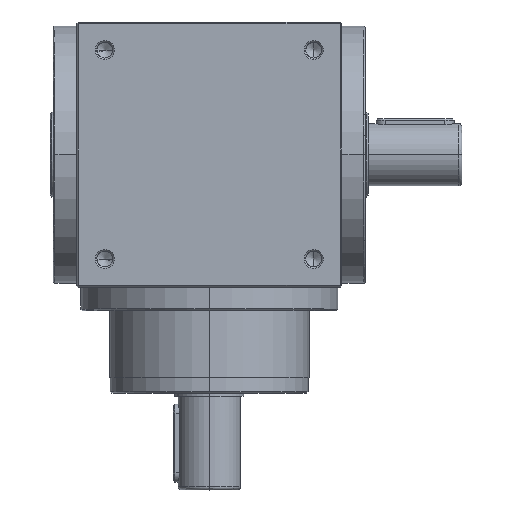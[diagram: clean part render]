
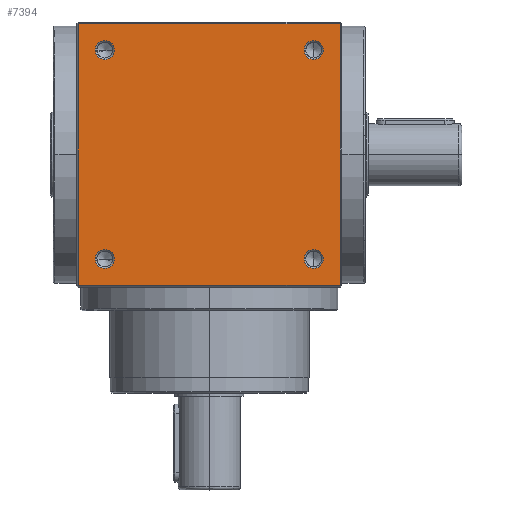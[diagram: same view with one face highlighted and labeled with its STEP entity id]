
A CAD part, top view. The second image highlights one B-rep face of the part: STEP entity #7394.
In plain terms, the highlighted planar face has unit normal (0, 0, 1).
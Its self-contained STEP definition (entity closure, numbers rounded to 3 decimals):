
#114 = PLANE ( 'NONE',  #3664 ) ;
#495 = CARTESIAN_POINT ( 'NONE',  ( 73.1, 67., 85. ) ) ;
#638 = CIRCLE ( 'NONE', #8283, 6.1 ) ;
#659 = AXIS2_PLACEMENT_3D ( 'NONE', #5183, #12362, #6223 ) ;
#974 = DIRECTION ( 'NONE',  ( 0., 0., 1. ) ) ;
#1041 = CARTESIAN_POINT ( 'NONE',  ( -84., -84., 85. ) ) ;
#1083 = CIRCLE ( 'NONE', #11430, 6.1 ) ;
#1101 = ORIENTED_EDGE ( 'NONE', *, *, #6350, .F. ) ;
#1317 = CARTESIAN_POINT ( 'NONE',  ( -84., 0., 85. ) ) ;
#1539 = FACE_BOUND ( 'NONE', #7695, .T. ) ;
#1827 = EDGE_CURVE ( 'NONE', #6848, #3055, #11643, .T. ) ;
#1859 = LINE ( 'NONE', #9875, #4597 ) ;
#1862 = VERTEX_POINT ( 'NONE', #4337 ) ;
#2081 = CARTESIAN_POINT ( 'NONE',  ( -67., 67., 85. ) ) ;
#2407 = VERTEX_POINT ( 'NONE', #3448 ) ;
#2441 = VECTOR ( 'NONE', #12505, 1000. ) ;
#2643 = EDGE_CURVE ( 'NONE', #10138, #3654, #638, .T. ) ;
#2686 = DIRECTION ( 'NONE',  ( 0., -1., 0. ) ) ;
#2918 = CARTESIAN_POINT ( 'NONE',  ( -67., -67., 85. ) ) ;
#2932 = CARTESIAN_POINT ( 'NONE',  ( 0., 0., 85. ) ) ;
#3002 = DIRECTION ( 'NONE',  ( 0., 0., 1. ) ) ;
#3055 = VERTEX_POINT ( 'NONE', #8786 ) ;
#3160 = ORIENTED_EDGE ( 'NONE', *, *, #11488, .F. ) ;
#3284 = DIRECTION ( 'NONE',  ( 1., 0., 0. ) ) ;
#3291 = EDGE_CURVE ( 'NONE', #1862, #12511, #10710, .T. ) ;
#3349 = AXIS2_PLACEMENT_3D ( 'NONE', #2081, #9441, #3284 ) ;
#3448 = CARTESIAN_POINT ( 'NONE',  ( -60.9, -67., 85. ) ) ;
#3632 = VERTEX_POINT ( 'NONE', #9722 ) ;
#3654 = VERTEX_POINT ( 'NONE', #495 ) ;
#3664 = AXIS2_PLACEMENT_3D ( 'NONE', #2932, #10148, #3950 ) ;
#3803 = CARTESIAN_POINT ( 'NONE',  ( 0., -84., 85. ) ) ;
#3892 = EDGE_CURVE ( 'NONE', #3654, #10138, #8023, .T. ) ;
#3939 = DIRECTION ( 'NONE',  ( 1., 0., 0. ) ) ;
#3950 = DIRECTION ( 'NONE',  ( -1., 0., 0. ) ) ;
#4222 = CIRCLE ( 'NONE', #7192, 6.1 ) ;
#4337 = CARTESIAN_POINT ( 'NONE',  ( 84., 84., 85. ) ) ;
#4597 = VECTOR ( 'NONE', #2686, 1000. ) ;
#4664 = ORIENTED_EDGE ( 'NONE', *, *, #1827, .F. ) ;
#4813 = ORIENTED_EDGE ( 'NONE', *, *, #8050, .F. ) ;
#5097 = DIRECTION ( 'NONE',  ( 0., 0., 1. ) ) ;
#5183 = CARTESIAN_POINT ( 'NONE',  ( -67., 67., 85. ) ) ;
#5208 = CARTESIAN_POINT ( 'NONE',  ( 73.1, -67., 85. ) ) ;
#5230 = VERTEX_POINT ( 'NONE', #6852 ) ;
#5271 = FACE_OUTER_BOUND ( 'NONE', #8754, .T. ) ;
#5649 = DIRECTION ( 'NONE',  ( 0., 0., 1. ) ) ;
#5844 = ORIENTED_EDGE ( 'NONE', *, *, #3291, .T. ) ;
#5948 = CARTESIAN_POINT ( 'NONE',  ( 60.9, -67., 85. ) ) ;
#5963 = DIRECTION ( 'NONE',  ( 0., 0., 1. ) ) ;
#6208 = ORIENTED_EDGE ( 'NONE', *, *, #2643, .F. ) ;
#6223 = DIRECTION ( 'NONE',  ( 1., 0., 0. ) ) ;
#6350 = EDGE_CURVE ( 'NONE', #7861, #8273, #4222, .T. ) ;
#6747 = EDGE_LOOP ( 'NONE', ( #12087, #11270 ) ) ;
#6800 = ORIENTED_EDGE ( 'NONE', *, *, #3892, .F. ) ;
#6848 = VERTEX_POINT ( 'NONE', #7325 ) ;
#6852 = CARTESIAN_POINT ( 'NONE',  ( 84., -84., 85. ) ) ;
#6954 = EDGE_CURVE ( 'NONE', #7324, #12511, #12893, .T. ) ;
#7157 = CARTESIAN_POINT ( 'NONE',  ( 67., -67., 85. ) ) ;
#7188 = EDGE_CURVE ( 'NONE', #2407, #3632, #8446, .T. ) ;
#7192 = AXIS2_PLACEMENT_3D ( 'NONE', #7157, #974, #8196 ) ;
#7324 = VERTEX_POINT ( 'NONE', #1041 ) ;
#7325 = CARTESIAN_POINT ( 'NONE',  ( -60.9, 67., 85. ) ) ;
#7380 = VECTOR ( 'NONE', #11023, 1000. ) ;
#7394 = ADVANCED_FACE ( 'NONE', ( #5271, #12782, #1539, #9766, #10422 ), #114, .F. ) ;
#7462 = EDGE_CURVE ( 'NONE', #3055, #6848, #7828, .T. ) ;
#7695 = EDGE_LOOP ( 'NONE', ( #6800, #6208 ) ) ;
#7828 = CIRCLE ( 'NONE', #659, 6.1 ) ;
#7861 = VERTEX_POINT ( 'NONE', #5948 ) ;
#7896 = EDGE_CURVE ( 'NONE', #8273, #7861, #1083, .T. ) ;
#7907 = ORIENTED_EDGE ( 'NONE', *, *, #7896, .F. ) ;
#8023 = CIRCLE ( 'NONE', #9852, 6.1 ) ;
#8050 = EDGE_CURVE ( 'NONE', #5230, #7324, #12800, .T. ) ;
#8196 = DIRECTION ( 'NONE',  ( 1., 0., 0. ) ) ;
#8273 = VERTEX_POINT ( 'NONE', #5208 ) ;
#8283 = AXIS2_PLACEMENT_3D ( 'NONE', #12102, #5963, #13053 ) ;
#8446 = CIRCLE ( 'NONE', #9713, 6.1 ) ;
#8532 = DIRECTION ( 'NONE',  ( 0., 1., 0. ) ) ;
#8754 = EDGE_LOOP ( 'NONE', ( #4813, #3160, #5844, #11796 ) ) ;
#8786 = CARTESIAN_POINT ( 'NONE',  ( -73.1, 67., 85. ) ) ;
#8909 = AXIS2_PLACEMENT_3D ( 'NONE', #11790, #5649, #12784 ) ;
#9148 = CARTESIAN_POINT ( 'NONE',  ( 67., -67., 85. ) ) ;
#9313 = CIRCLE ( 'NONE', #8909, 6.1 ) ;
#9430 = CARTESIAN_POINT ( 'NONE',  ( 0., 84., 85. ) ) ;
#9441 = DIRECTION ( 'NONE',  ( 0., 0., 1. ) ) ;
#9713 = AXIS2_PLACEMENT_3D ( 'NONE', #2918, #10136, #3939 ) ;
#9722 = CARTESIAN_POINT ( 'NONE',  ( -73.1, -67., 85. ) ) ;
#9766 = FACE_BOUND ( 'NONE', #6747, .T. ) ;
#9852 = AXIS2_PLACEMENT_3D ( 'NONE', #11271, #5097, #12285 ) ;
#9875 = CARTESIAN_POINT ( 'NONE',  ( 84., 0., 85. ) ) ;
#10120 = ORIENTED_EDGE ( 'NONE', *, *, #7462, .F. ) ;
#10136 = DIRECTION ( 'NONE',  ( 0., 0., 1. ) ) ;
#10138 = VERTEX_POINT ( 'NONE', #11332 ) ;
#10148 = DIRECTION ( 'NONE',  ( 0., 0., -1. ) ) ;
#10160 = CARTESIAN_POINT ( 'NONE',  ( -84., 84., 85. ) ) ;
#10217 = DIRECTION ( 'NONE',  ( 1., 0., 0. ) ) ;
#10422 = FACE_BOUND ( 'NONE', #12544, .T. ) ;
#10710 = LINE ( 'NONE', #9430, #2441 ) ;
#11023 = DIRECTION ( 'NONE',  ( -1., 0., 0. ) ) ;
#11270 = ORIENTED_EDGE ( 'NONE', *, *, #11854, .F. ) ;
#11271 = CARTESIAN_POINT ( 'NONE',  ( 67., 67., 85. ) ) ;
#11332 = CARTESIAN_POINT ( 'NONE',  ( 60.9, 67., 85. ) ) ;
#11430 = AXIS2_PLACEMENT_3D ( 'NONE', #9148, #3002, #10217 ) ;
#11488 = EDGE_CURVE ( 'NONE', #1862, #5230, #1859, .T. ) ;
#11643 = CIRCLE ( 'NONE', #3349, 6.1 ) ;
#11790 = CARTESIAN_POINT ( 'NONE',  ( -67., -67., 85. ) ) ;
#11796 = ORIENTED_EDGE ( 'NONE', *, *, #6954, .F. ) ;
#11854 = EDGE_CURVE ( 'NONE', #3632, #2407, #9313, .T. ) ;
#11996 = VECTOR ( 'NONE', #8532, 1000. ) ;
#12087 = ORIENTED_EDGE ( 'NONE', *, *, #7188, .F. ) ;
#12102 = CARTESIAN_POINT ( 'NONE',  ( 67., 67., 85. ) ) ;
#12285 = DIRECTION ( 'NONE',  ( 1., 0., 0. ) ) ;
#12362 = DIRECTION ( 'NONE',  ( 0., 0., 1. ) ) ;
#12505 = DIRECTION ( 'NONE',  ( -1., 0., 0. ) ) ;
#12511 = VERTEX_POINT ( 'NONE', #10160 ) ;
#12544 = EDGE_LOOP ( 'NONE', ( #7907, #1101 ) ) ;
#12747 = EDGE_LOOP ( 'NONE', ( #4664, #10120 ) ) ;
#12782 = FACE_BOUND ( 'NONE', #12747, .T. ) ;
#12784 = DIRECTION ( 'NONE',  ( 1., 0., 0. ) ) ;
#12800 = LINE ( 'NONE', #3803, #7380 ) ;
#12893 = LINE ( 'NONE', #1317, #11996 ) ;
#13053 = DIRECTION ( 'NONE',  ( 1., 0., 0. ) ) ;
